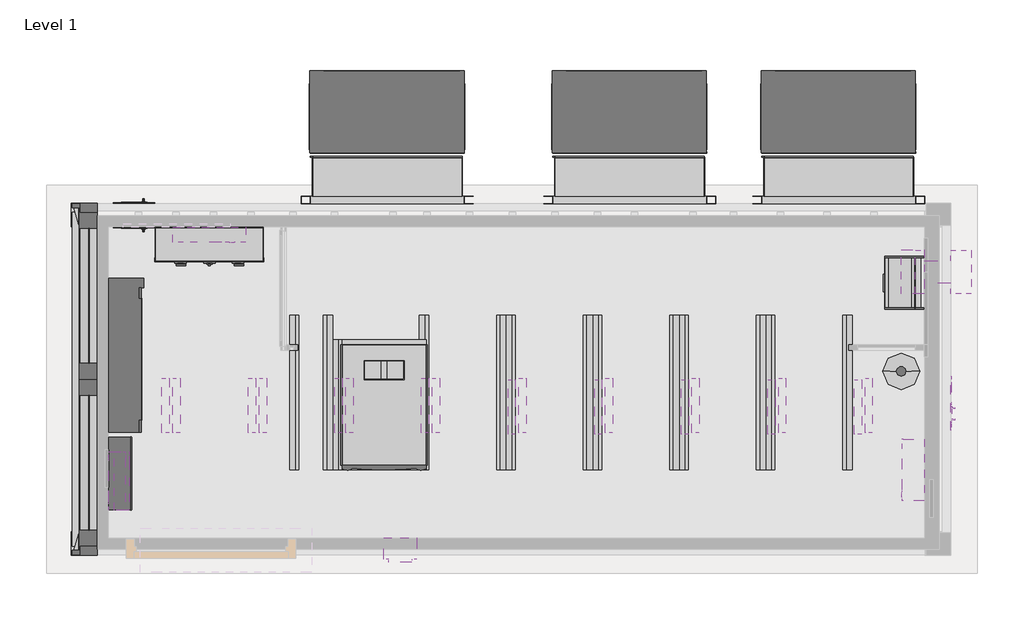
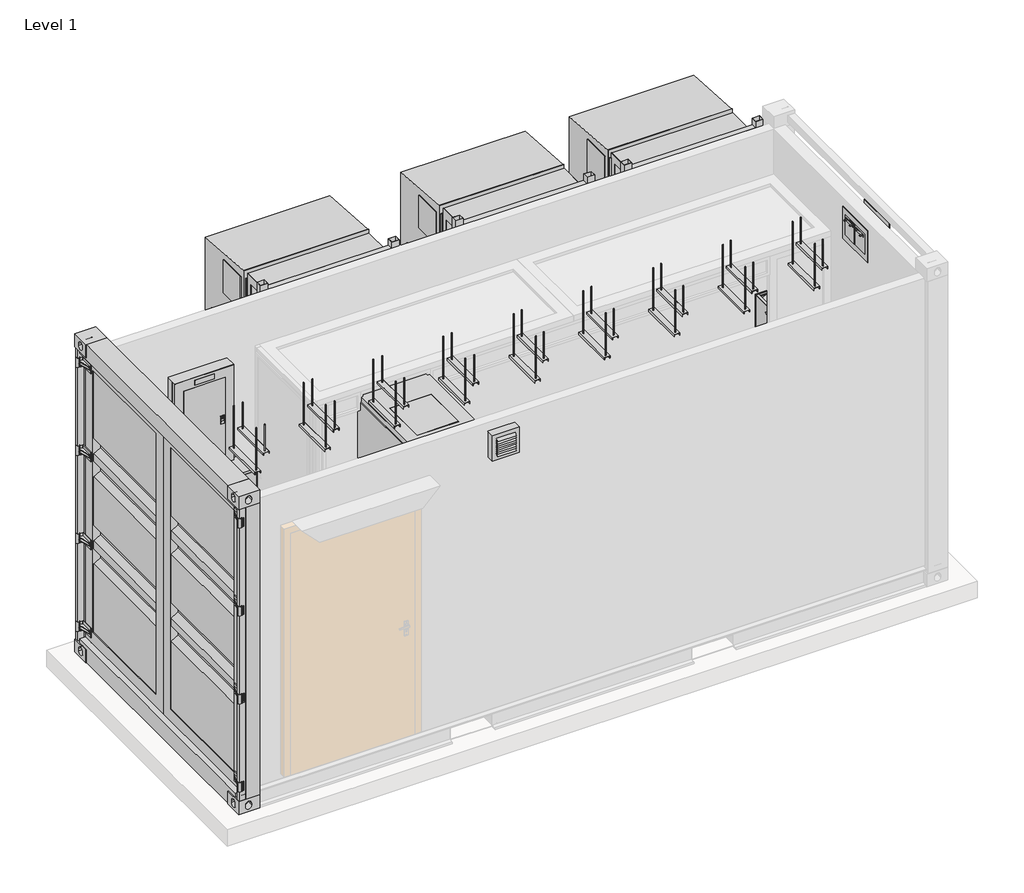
# One storey, part 2 of 2: 25 proxies, 18 cable carrier fittings, 1 alarm.
"""IFC4 building model written with IfcOpenShell, lengths in millimetres."""

from ifc_helpers import new_model, si_unit, origin, place, context, project, spatial, transform, mapped, element, save
from components import cylinder_1_cylinder_1_a0b04ee7, electrical_equipment_14537a31, generic_models_3c25a827, generic_models_1ea03f89, electrical_equipment_4af9c3ab, electrical_equipment_016c1aae, mechanical_equipment_c87a87b9, cp_100_control_panel_70f97e11, climate_control_climate_control_e813e11c, climate_control2_climate_control2_4c8c6d90, cooling_unit_w72lap_with_frame_cooling_unit_w72aap_with_416218e2, distribution_panel_mdp300_type_1_70450f75, e2m_access_control_panel_3c231cc1, fire_alarm_control_panel_67536681, generator_annunciator_panel_2783cb85, i_line_power_distribution_panel_board_enclosure_55b0a53f, rack_mount_base_rack_mount_base_1a063dba, rack_mount_base_rack_mount_base_3f2ea301, rack_mount_base_rack_mount_base_61a671b6, sbp40kfc1m1_sbp40kfc1m1_9b0228e6, type_1_dc116fad, hanger_cabletray_hanger_cabletray_434e3e47, hanger_cabletray_hanger_cabletray_68d978af

model = new_model("IFC4")

# Units and contexts
model_context = context("Model", 3, world=origin())
ifc_project = project(units=[si_unit("LENGTHUNIT", "METRE", prefix="MILLI")], contexts=[model_context])

# Site, building, storey
site = spatial("IfcSite", under=ifc_project)
building = spatial("IfcBuilding", under=site)
storey = spatial("IfcBuildingStorey", under=building, Name="Level 1", Elevation=0.0)

# Alarm
placement = place(None, origin())
cylinder_1_cylinder_1_shape = cylinder_1_cylinder_1_a0b04ee7(model_context)
element("IfcAlarm", 1, ObjectType="Cylinder-1 : Cylinder-1", at=placement, inside=storey, context=model_context, shape_type="MappedRepresentation", body=[
    mapped(cylinder_1_cylinder_1_shape, transform((1530.3891977, -1700.9432638, 424.0), x_axis=(1.0, 0.0, 0.0), y_axis=(0.0, 1.0, 0.0), z_axis=(0.0, 0.0, 1.0))),
])

# Proxies
electrical_equipment_shape = electrical_equipment_14537a31(model_context)
element("IfcBuildingElementProxy", 2, Name="UPS_Symmetra_PX_40_Schneider_Electric_10-40kVA_208V_BIM_Model : SY40K40F", ObjectType="UPS_Symmetra_PX_40_Schneider_Electric_10-40kVA_208V_BIM_Model : SY40K40F", at=placement, inside=storey, context=model_context, shape_type="MappedRepresentation", body=[
    mapped(electrical_equipment_shape, transform((-2053.9377197, -1933.8205387, 464.0), x_axis=(1.0, 0.0, 0.0), y_axis=(0.0, 1.0, 0.0), z_axis=(0.0, 0.0, 1.0))),
])
generic_models_shape = generic_models_3c25a827(model_context)
generic_models_2_shape = generic_models_1ea03f89(model_context)
element("IfcBuildingElementProxy", 3, Name="Left_Wall_Container_Config-6 : Left_Wall_Container_Config-6", ObjectType="Left_Wall_Container_Config-6 : Left_Wall_Container_Config-6", at=placement, inside=storey, context=model_context, shape_type="MappedRepresentation", body=[
    mapped(generic_models_shape, transform((-4216.9160547, -1755.2772175, 250.9999915), x_axis=(0.0, -0.9999999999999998, 0.0), y_axis=(0.9999999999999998, 0.0, 0.0), z_axis=(0.0, 0.0, 1.0))),
    mapped(generic_models_2_shape, transform((-4216.9160547, -1755.2772175, 250.9999915), x_axis=(0.0, -0.9999999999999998, 0.0), y_axis=(0.9999999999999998, 0.0, 0.0), z_axis=(0.0, 0.0, 1.0))),
])
electrical_equipment_2_shape = electrical_equipment_4af9c3ab(model_context)
element("IfcBuildingElementProxy", 4, Name="Distribution_Socket_4_rotated : Distribution_Socket_4_rotated", ObjectType="Distribution_Socket_4_rotated : Distribution_Socket_4_rotated", at=placement, inside=storey, context=model_context, shape_type="MappedRepresentation", body=[
    mapped(electrical_equipment_2_shape, transform((-3787.6114235, -619.7772175, 897.2742465), x_axis=(1.0, 0.0, 0.0), y_axis=(0.0, 1.0, 0.0), z_axis=(0.0, 0.0, 1.0))),
])
electrical_equipment_3_shape = electrical_equipment_016c1aae(model_context)
element("IfcBuildingElementProxy", 5, Name="Distribution_Sockets_Two : Distribution_Sockets_Two", ObjectType="Distribution_Sockets_Two : Distribution_Sockets_Two", at=placement, inside=storey, context=model_context, shape_type="MappedRepresentation", body=[
    mapped(electrical_equipment_3_shape, transform((1781.8997533, -1765.2772175, 2822.1384823), x_axis=(0.0, 1.0, 0.0), y_axis=(-1.0, 0.0, 0.0), z_axis=(0.0, 0.0, 1.0))),
])
mechanical_equipment_shape = mechanical_equipment_c87a87b9(model_context)
element("IfcBuildingElementProxy", 6, Name="Climate_Control_acce : Climate_Control_acce", ObjectType="Climate_Control_acce : Climate_Control_acce", at=placement, inside=storey, context=model_context, shape_type="MappedRepresentation", body=[
    mapped(mechanical_equipment_shape, transform((1611.3891893, -1012.0140253, 2162.5839185), x_axis=(1.0, 0.0, 0.0), y_axis=(0.0, 1.0, 0.0), z_axis=(0.0, 0.0, 1.0))),
])
cp_100_control_panel_shape = cp_100_control_panel_70f97e11(model_context)
element("IfcBuildingElementProxy", 7, Name="CP-100_Control_Panel_Wallmount_BIM_Model_Config6 : CP-100 Control panel", ObjectType="CP-100_Control_Panel_Wallmount_BIM_Model_Config6 : CP-100 Control panel", at=placement, inside=storey, context=model_context, shape_type="MappedRepresentation", body=[
    mapped(cp_100_control_panel_shape, transform((-3974.1108107, -2295.9573474, 726.1502108), x_axis=(0.0, -1.0, 0.0), y_axis=(1.0, 0.0, 0.0), z_axis=(0.0, 0.0, 1.0))),
])
climate_control_climate_control_shape = climate_control_climate_control_e813e11c(model_context)
element("IfcBuildingElementProxy", 8, Name="Climate Control : Climate Control", ObjectType="Climate Control : Climate Control", at=placement, inside=storey, context=model_context, shape_type="MappedRepresentation", body=[
    mapped(climate_control_climate_control_shape, transform((1795.4580948, -1162.9476702, 2321.0), x_axis=(0.0, 1.0000000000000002, 0.0), y_axis=(-1.0000000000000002, 0.0, 0.0), z_axis=(0.0, 0.0, 1.0))),
])
climate_control2_climate_control2_shape = climate_control2_climate_control2_4c8c6d90(model_context)
element("IfcBuildingElementProxy", 9, Name="Climate_Control2 : Climate_Control2", ObjectType="Climate_Control2 : Climate_Control2", at=placement, inside=storey, context=model_context, shape_type="MappedRepresentation", body=[
    mapped(climate_control2_climate_control2_shape, transform((-1942.6108023, -2930.2772175, 2730.25), x_axis=(1.0, 0.0, 0.0), y_axis=(0.0, 1.0, 0.0), z_axis=(0.0, 0.0, 1.0))),
])
cooling_unit_w72lap_with_frame_cooling_unit_w72aap_with_shape = cooling_unit_w72lap_with_frame_cooling_unit_w72aap_with_416218e2(model_context)
element("IfcBuildingElementProxy", 10, Name="Cooling_Unit_W72LAP_With_Frame : Cooling Unit - W72AAP-With Frame", ObjectType="Cooling_Unit_W72LAP_With_Frame : Cooling Unit - W72AAP-With Frame", at=placement, inside=storey, context=model_context, shape_type="MappedRepresentation", body=[
    mapped(cooling_unit_w72lap_with_frame_cooling_unit_w72aap_with_shape, transform((1096.9643306, -579.2772175, 197.0000374), x_axis=(1.0, 0.0, 0.0), y_axis=(0.0, 1.0, 0.0), z_axis=(0.0, 0.0, 1.0))),
])
element("IfcBuildingElementProxy", 11, Name="Cooling_Unit_W72LAP_With_Frame : Cooling Unit - W72AAP-With Frame", ObjectType="Cooling_Unit_W72LAP_With_Frame : Cooling Unit - W72AAP-With Frame", at=placement, inside=storey, context=model_context, shape_type="MappedRepresentation", body=[
    mapped(cooling_unit_w72lap_with_frame_cooling_unit_w72aap_with_shape, transform((-351.9332377, -579.2772175, 197.0000374), x_axis=(1.0, 0.0, 0.0), y_axis=(0.0, 1.0, 0.0), z_axis=(0.0, 0.0, 1.0))),
])
element("IfcBuildingElementProxy", 12, Name="Cooling_Unit_W72LAP_With_Frame : Cooling Unit - W72AAP-With Frame", ObjectType="Cooling_Unit_W72LAP_With_Frame : Cooling Unit - W72AAP-With Frame", at=placement, inside=storey, context=model_context, shape_type="MappedRepresentation", body=[
    mapped(cooling_unit_w72lap_with_frame_cooling_unit_w72aap_with_shape, transform((-2031.9997415, -579.2772175, 197.0000374), x_axis=(1.0, 0.0, 0.0), y_axis=(0.0, 1.0, 0.0), z_axis=(0.0, 0.0, 1.0))),
])
distribution_panel_mdp300_type_1_shape = distribution_panel_mdp300_type_1_70450f75(model_context)
element("IfcBuildingElementProxy", 13, Name="Distribution_Panel_MDP300 : Type 1", ObjectType="Distribution_Panel_MDP300 : Type 1", at=placement, inside=storey, context=model_context, shape_type="MappedRepresentation", body=[
    mapped(distribution_panel_mdp300_type_1_shape, transform((-3265.9549951, -690.78503, 218.0076348), x_axis=(-1.0, 0.0, 0.0), y_axis=(0.0, -1.0, 0.0), z_axis=(0.0, 0.0, 1.0))),
])
e2m_access_control_panel_shape = e2m_access_control_panel_3c231cc1(model_context)
element("IfcBuildingElementProxy", 14, Name="E2M_Access_Control_Panel_config6 : E2M-Access Control Panel", ObjectType="E2M_Access_Control_Panel_config6 : E2M-Access Control Panel", at=placement, inside=storey, context=model_context, shape_type="MappedRepresentation", body=[
    mapped(e2m_access_control_panel_shape, transform((-3974.1108107, -2459.7531283, 983.602716), x_axis=(0.0, -1.0, 0.0), y_axis=(1.0, 0.0, 0.0), z_axis=(0.0, 0.0, 1.0))),
])
fire_alarm_control_panel_shape = fire_alarm_control_panel_67536681(model_context)
element("IfcBuildingElementProxy", 15, Name="Fire_Alarm_Control_Panel_Wallmount_BIM_Model : Fire Alarm Control Panel", ObjectType="Fire_Alarm_Control_Panel_Wallmount_BIM_Model : Fire Alarm Control Panel", at=placement, inside=storey, context=model_context, shape_type="MappedRepresentation", body=[
    mapped(fire_alarm_control_panel_shape, transform((1740.3997533, -2508.6153667, 1388.8818006), x_axis=(0.0, 1.0, 0.0), y_axis=(-1.0, 0.0, 0.0), z_axis=(0.0, 0.0, 1.0))),
])
generator_annunciator_panel_shape = generator_annunciator_panel_2783cb85(model_context)
element("IfcBuildingElementProxy", 16, Name="Generator_Annunciator_Panel_Wallmount_BIM_Model_Config6 : Generator Annunciator Panel", ObjectType="Generator_Annunciator_Panel_Wallmount_BIM_Model_Config6 : Generator Annunciator Panel", at=placement, inside=storey, context=model_context, shape_type="MappedRepresentation", body=[
    mapped(generator_annunciator_panel_shape, transform((-3999.1108107, -2335.1794245, 901.1502108), x_axis=(0.0, -1.0, 0.0), y_axis=(1.0, 0.0, 0.0), z_axis=(0.0, 0.0, 1.0))),
])
i_line_power_distribution_panel_board_enclosure_shape = i_line_power_distribution_panel_board_enclosure_55b0a53f(model_context)
element("IfcBuildingElementProxy", 17, Name="I-Line_PDP_Config6 : I-Line Power Distribution Panel Board Enclosure", ObjectType="I-Line_PDP_Config6 : I-Line Power Distribution Panel Board Enclosure", at=placement, inside=storey, context=model_context, shape_type="MappedRepresentation", body=[
    mapped(i_line_power_distribution_panel_board_enclosure_shape, transform((-3841.6108107, -1590.2772175, 424.0), x_axis=(0.0, 1.0000000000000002, 0.0), y_axis=(-1.0000000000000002, 0.0, 0.0), z_axis=(0.0, 0.0, 1.0))),
])
rack_mount_base_rack_mount_base_shape = rack_mount_base_rack_mount_base_1a063dba(model_context)
element("IfcBuildingElementProxy", 18, Name="Rack_Mount_Base : Rack_Mount_Base", ObjectType="Rack_Mount_Base : Rack_Mount_Base", at=placement, inside=storey, context=model_context, shape_type="MappedRepresentation", body=[
    mapped(rack_mount_base_rack_mount_base_shape, transform((-2709.5730245, -1312.7772175, 424.0), x_axis=(1.0, 0.0, 0.0), y_axis=(0.0, 1.0, 0.0), z_axis=(0.0, 0.0, 1.0))),
])
rack_mount_base_rack_mount_base_2_shape = rack_mount_base_rack_mount_base_3f2ea301(model_context)
element("IfcBuildingElementProxy", 19, Name="Rack_Mount_Base : Rack_Mount_Base", ObjectType="Rack_Mount_Base : Rack_Mount_Base", at=placement, inside=storey, context=model_context, shape_type="MappedRepresentation", body=[
    mapped(rack_mount_base_rack_mount_base_2_shape, transform((-1809.5730245, -1312.7772175, 424.0), x_axis=(1.0, 0.0, 0.0), y_axis=(0.0, 1.0, 0.0), z_axis=(0.0, 0.0, 1.0))),
])
element("IfcBuildingElementProxy", 20, Name="Rack_Mount_Base : Rack_Mount_Base", ObjectType="Rack_Mount_Base : Rack_Mount_Base", at=placement, inside=storey, context=model_context, shape_type="MappedRepresentation", body=[
    mapped(rack_mount_base_rack_mount_base_2_shape, transform((-1209.5730245, -1312.7772175, 424.0), x_axis=(1.0, 0.0, 0.0), y_axis=(0.0, 1.0, 0.0), z_axis=(0.0, 0.0, 1.0))),
])
element("IfcBuildingElementProxy", 21, Name="Rack_Mount_Base : Rack_Mount_Base", ObjectType="Rack_Mount_Base : Rack_Mount_Base", at=placement, inside=storey, context=model_context, shape_type="MappedRepresentation", body=[
    mapped(rack_mount_base_rack_mount_base_2_shape, transform((-609.5730245, -1312.7772175, 424.0), x_axis=(1.0, 0.0, 0.0), y_axis=(0.0, 1.0, 0.0), z_axis=(0.0, 0.0, 1.0))),
])
element("IfcBuildingElementProxy", 22, Name="Rack_Mount_Base : Rack_Mount_Base", ObjectType="Rack_Mount_Base : Rack_Mount_Base", at=placement, inside=storey, context=model_context, shape_type="MappedRepresentation", body=[
    mapped(rack_mount_base_rack_mount_base_2_shape, transform((-9.5730245, -1312.7772175, 424.0), x_axis=(1.0, 0.0, 0.0), y_axis=(0.0, 1.0, 0.0), z_axis=(0.0, 0.0, 1.0))),
])
element("IfcBuildingElementProxy", 23, Name="Rack_Mount_Base : Rack_Mount_Base", ObjectType="Rack_Mount_Base : Rack_Mount_Base", at=placement, inside=storey, context=model_context, shape_type="MappedRepresentation", body=[
    mapped(rack_mount_base_rack_mount_base_2_shape, transform((590.4269755, -1312.7772175, 424.0), x_axis=(1.0, 0.0, 0.0), y_axis=(0.0, 1.0, 0.0), z_axis=(0.0, 0.0, 1.0))),
])
rack_mount_base_rack_mount_base_3_shape = rack_mount_base_rack_mount_base_61a671b6(model_context)
element("IfcBuildingElementProxy", 24, Name="Rack_Mount_Base : Rack_Mount_Base", ObjectType="Rack_Mount_Base : Rack_Mount_Base", at=placement, inside=storey, context=model_context, shape_type="MappedRepresentation", body=[
    mapped(rack_mount_base_rack_mount_base_3_shape, transform((-2409.5730245, -1482.8205387, 424.0), x_axis=(1.0, 0.0, 0.0), y_axis=(0.0, 1.0, 0.0), z_axis=(0.0, 0.0, 1.0))),
])
sbp40kfc1m1_sbp40kfc1m1_shape = sbp40kfc1m1_sbp40kfc1m1_9b0228e6(model_context)
element("IfcBuildingElementProxy", 25, Name="SBP40KFC1M1 : SBP40KFC1M1", ObjectType="SBP40KFC1M1 : SBP40KFC1M1", at=placement, inside=storey, context=model_context, shape_type="MappedRepresentation", body=[
    mapped(sbp40kfc1m1_sbp40kfc1m1_shape, transform((-3265.9549951, -744.09818, -278.0085125), x_axis=(-1.0, 0.0, 0.0), y_axis=(0.0, -1.0, 0.0), z_axis=(0.0, 0.0, 1.0))),
])
type_1_shape = type_1_dc116fad(model_context)
element("IfcBuildingElementProxy", 26, Name="UE001 - Carel_Humidifier_Wallmount_BIM_Model : Type 1", ObjectType="UE001 - Carel_Humidifier_Wallmount_BIM_Model : Type 1", at=placement, inside=storey, context=model_context, shape_type="MappedRepresentation", body=[
    mapped(type_1_shape, transform((1702.8997533, -1086.096377, 646.2875), x_axis=(0.0, 1.0, 0.0), y_axis=(-1.0, 0.0, 0.0), z_axis=(0.0, 0.0, 1.0))),
])

# Cable carrier fittings
hanger_cabletray_hanger_cabletray_shape = hanger_cabletray_hanger_cabletray_434e3e47(model_context)
element("IfcCableCarrierFitting", 27, ObjectType="Hanger_CableTray : Hanger_CableTray", at=placement, inside=storey, context=model_context, shape_type="MappedRepresentation", body=[
    mapped(hanger_cabletray_hanger_cabletray_shape, transform((-3494.5012088, -1772.2772175, 2737.0), x_axis=(0.0, 1.0, 0.0), y_axis=(-1.0, 0.0, 0.0), z_axis=(0.0, 0.0, 1.0))),
])
element("IfcCableCarrierFitting", 28, ObjectType="Hanger_CableTray : Hanger_CableTray", at=placement, inside=storey, context=model_context, shape_type="MappedRepresentation", body=[
    mapped(hanger_cabletray_hanger_cabletray_shape, transform((-2894.5012088, -1772.2772175, 2737.0), x_axis=(0.0, 1.0, 0.0), y_axis=(-1.0, 0.0, 0.0), z_axis=(0.0, 0.0, 1.0))),
])
element("IfcCableCarrierFitting", 29, ObjectType="Hanger_CableTray : Hanger_CableTray", at=placement, inside=storey, context=model_context, shape_type="MappedRepresentation", body=[
    mapped(hanger_cabletray_hanger_cabletray_shape, transform((-2294.5012088, -1772.2772175, 2737.0), x_axis=(0.0, 1.0, 0.0), y_axis=(-1.0, 0.0, 0.0), z_axis=(0.0, 0.0, 1.0))),
])
element("IfcCableCarrierFitting", 30, ObjectType="Hanger_CableTray : Hanger_CableTray", at=placement, inside=storey, context=model_context, shape_type="MappedRepresentation", body=[
    mapped(hanger_cabletray_hanger_cabletray_shape, transform((-1694.5012088, -1772.2772175, 2737.0), x_axis=(0.0, 1.0, 0.0), y_axis=(-1.0, 0.0, 0.0), z_axis=(0.0, 0.0, 1.0))),
])
element("IfcCableCarrierFitting", 31, ObjectType="Hanger_CableTray : Hanger_CableTray", at=placement, inside=storey, context=model_context, shape_type="MappedRepresentation", body=[
    mapped(hanger_cabletray_hanger_cabletray_shape, transform((-1094.5012088, -1772.2772175, 2737.0), x_axis=(0.0, 1.0, 0.0), y_axis=(-1.0, 0.0, 0.0), z_axis=(0.0, 0.0, 1.0))),
])
element("IfcCableCarrierFitting", 32, ObjectType="Hanger_CableTray : Hanger_CableTray", at=placement, inside=storey, context=model_context, shape_type="MappedRepresentation", body=[
    mapped(hanger_cabletray_hanger_cabletray_shape, transform((-494.5012088, -1772.2772175, 2737.0), x_axis=(0.0, 1.0, 0.0), y_axis=(-1.0, 0.0, 0.0), z_axis=(0.0, 0.0, 1.0))),
])
element("IfcCableCarrierFitting", 33, ObjectType="Hanger_CableTray : Hanger_CableTray", at=placement, inside=storey, context=model_context, shape_type="MappedRepresentation", body=[
    mapped(hanger_cabletray_hanger_cabletray_shape, transform((105.4987912, -1772.2772175, 2737.0), x_axis=(0.0, 1.0, 0.0), y_axis=(-1.0, 0.0, 0.0), z_axis=(0.0, 0.0, 1.0))),
])
element("IfcCableCarrierFitting", 34, ObjectType="Hanger_CableTray : Hanger_CableTray", at=placement, inside=storey, context=model_context, shape_type="MappedRepresentation", body=[
    mapped(hanger_cabletray_hanger_cabletray_shape, transform((705.4987912, -1772.2772175, 2737.0), x_axis=(0.0, 1.0, 0.0), y_axis=(-1.0, 0.0, 0.0), z_axis=(0.0, 0.0, 1.0))),
])
element("IfcCableCarrierFitting", 35, ObjectType="Hanger_CableTray : Hanger_CableTray", at=placement, inside=storey, context=model_context, shape_type="MappedRepresentation", body=[
    mapped(hanger_cabletray_hanger_cabletray_shape, transform((1305.4987912, -1772.2772175, 2737.0), x_axis=(0.0, 1.0, 0.0), y_axis=(-1.0, 0.0, 0.0), z_axis=(0.0, 0.0, 1.0))),
])
hanger_cabletray_hanger_cabletray_2_shape = hanger_cabletray_hanger_cabletray_68d978af(model_context)
element("IfcCableCarrierFitting", 36, ObjectType="Hanger_CableTray : Hanger_CableTray", at=placement, inside=storey, context=model_context, shape_type="MappedRepresentation", body=[
    mapped(hanger_cabletray_hanger_cabletray_2_shape, transform((-3569.5012088, -1772.2772175, 2586.5), x_axis=(0.0, 1.0, 0.0), y_axis=(-1.0, 0.0, 0.0), z_axis=(0.0, 0.0, 1.0))),
])
element("IfcCableCarrierFitting", 37, ObjectType="Hanger_CableTray : Hanger_CableTray", at=placement, inside=storey, context=model_context, shape_type="MappedRepresentation", body=[
    mapped(hanger_cabletray_hanger_cabletray_2_shape, transform((-2969.5012088, -1772.2772175, 2586.5), x_axis=(0.0, 1.0, 0.0), y_axis=(-1.0, 0.0, 0.0), z_axis=(0.0, 0.0, 1.0))),
])
element("IfcCableCarrierFitting", 38, ObjectType="Hanger_CableTray : Hanger_CableTray", at=placement, inside=storey, context=model_context, shape_type="MappedRepresentation", body=[
    mapped(hanger_cabletray_hanger_cabletray_2_shape, transform((-2369.5012088, -1772.2772175, 2586.5), x_axis=(0.0, 1.0, 0.0), y_axis=(-1.0, 0.0, 0.0), z_axis=(0.0, 0.0, 1.0))),
])
element("IfcCableCarrierFitting", 39, ObjectType="Hanger_CableTray : Hanger_CableTray", at=placement, inside=storey, context=model_context, shape_type="MappedRepresentation", body=[
    mapped(hanger_cabletray_hanger_cabletray_2_shape, transform((-1769.5012088, -1772.2772175, 2586.5), x_axis=(0.0, 1.0, 0.0), y_axis=(-1.0, 0.0, 0.0), z_axis=(0.0, 0.0, 1.0))),
])
element("IfcCableCarrierFitting", 40, ObjectType="Hanger_CableTray : Hanger_CableTray", at=placement, inside=storey, context=model_context, shape_type="MappedRepresentation", body=[
    mapped(hanger_cabletray_hanger_cabletray_2_shape, transform((-1169.5012088, -1783.2452169, 2586.5), x_axis=(0.0, 1.0, 0.0), y_axis=(-1.0, 0.0, 0.0), z_axis=(0.0, 0.0, 1.0))),
])
element("IfcCableCarrierFitting", 41, ObjectType="Hanger_CableTray : Hanger_CableTray", at=placement, inside=storey, context=model_context, shape_type="MappedRepresentation", body=[
    mapped(hanger_cabletray_hanger_cabletray_2_shape, transform((-569.5012088, -1783.2452169, 2586.5), x_axis=(0.0, 1.0, 0.0), y_axis=(-1.0, 0.0, 0.0), z_axis=(0.0, 0.0, 1.0))),
])
element("IfcCableCarrierFitting", 42, ObjectType="Hanger_CableTray : Hanger_CableTray", at=placement, inside=storey, context=model_context, shape_type="MappedRepresentation", body=[
    mapped(hanger_cabletray_hanger_cabletray_2_shape, transform((30.4987912, -1783.2452169, 2586.5), x_axis=(0.0, 1.0, 0.0), y_axis=(-1.0, 0.0, 0.0), z_axis=(0.0, 0.0, 1.0))),
])
element("IfcCableCarrierFitting", 43, ObjectType="Hanger_CableTray : Hanger_CableTray", at=placement, inside=storey, context=model_context, shape_type="MappedRepresentation", body=[
    mapped(hanger_cabletray_hanger_cabletray_2_shape, transform((630.4987912, -1783.2452169, 2586.5), x_axis=(0.0, 1.0, 0.0), y_axis=(-1.0, 0.0, 0.0), z_axis=(0.0, 0.0, 1.0))),
])
element("IfcCableCarrierFitting", 44, ObjectType="Hanger_CableTray : Hanger_CableTray", at=placement, inside=storey, context=model_context, shape_type="MappedRepresentation", body=[
    mapped(hanger_cabletray_hanger_cabletray_2_shape, transform((1230.4987912, -1783.2452169, 2586.5), x_axis=(0.0, 1.0, 0.0), y_axis=(-1.0, 0.0, 0.0), z_axis=(0.0, 0.0, 1.0))),
])

save(model, "model.ifc")
